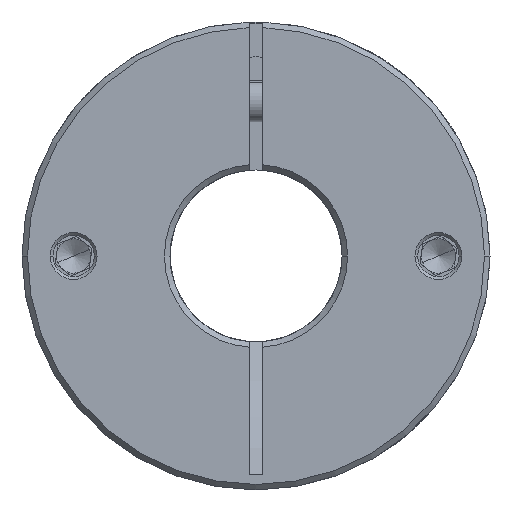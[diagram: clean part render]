
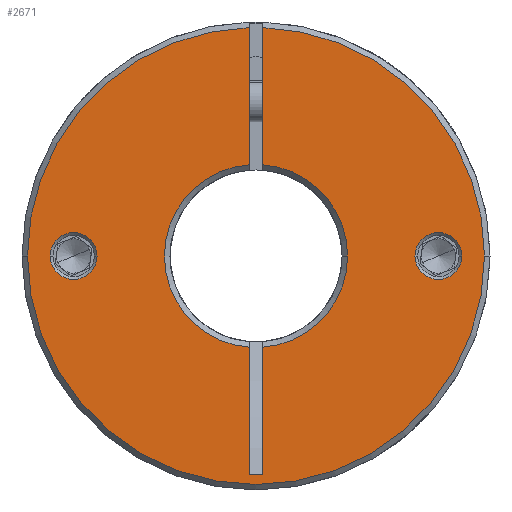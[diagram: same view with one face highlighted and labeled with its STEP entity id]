
A CAD part, front view. The second image highlights one B-rep face of the part: STEP entity #2671.
In plain terms, the highlighted planar face has unit normal (0, -1, 0).
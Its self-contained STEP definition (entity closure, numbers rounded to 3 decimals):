
#128 = ORIENTED_EDGE ( 'NONE', *, *, #8541, .T. ) ;
#155 = ORIENTED_EDGE ( 'NONE', *, *, #10437, .T. ) ;
#261 = VECTOR ( 'NONE', #12223, 1000. ) ;
#287 = AXIS2_PLACEMENT_3D ( 'NONE', #10961, #4837, #667 ) ;
#355 = CARTESIAN_POINT ( 'NONE',  ( -3.735, -47.045, 101.185 ) ) ;
#404 = DIRECTION ( 'NONE',  ( 1., 0., 0. ) ) ;
#440 = DIRECTION ( 'NONE',  ( 1., 0., 0. ) ) ;
#449 = LINE ( 'NONE', #1004, #8158 ) ;
#667 = DIRECTION ( 'NONE',  ( 1., 0., 0. ) ) ;
#725 = ORIENTED_EDGE ( 'NONE', *, *, #7906, .T. ) ;
#765 = VERTEX_POINT ( 'NONE', #12778 ) ;
#1004 = CARTESIAN_POINT ( 'NONE',  ( -3.735, -47.045, 68. ) ) ;
#1015 = VERTEX_POINT ( 'NONE', #1152 ) ;
#1054 = CIRCLE ( 'NONE', #7667, 13.3 ) ;
#1142 = CARTESIAN_POINT ( 'NONE',  ( -1.735, -47.045, 68. ) ) ;
#1152 = CARTESIAN_POINT ( 'NONE',  ( -1.735, -47.045, 54.738 ) ) ;
#1239 = CIRCLE ( 'NONE', #4769, 13.3 ) ;
#1367 = CARTESIAN_POINT ( 'NONE',  ( -3.735, -47.045, 54.738 ) ) ;
#1420 = VERTEX_POINT ( 'NONE', #4089 ) ;
#1473 = CIRCLE ( 'NONE', #12569, 33.2 ) ;
#1604 = DIRECTION ( 'NONE',  ( 0., 1., 0. ) ) ;
#1718 = VERTEX_POINT ( 'NONE', #11861 ) ;
#1912 = VECTOR ( 'NONE', #9119, 1000. ) ;
#2124 = AXIS2_PLACEMENT_3D ( 'NONE', #9605, #10636, #12713 ) ;
#2381 = ORIENTED_EDGE ( 'NONE', *, *, #4077, .T. ) ;
#2495 = CARTESIAN_POINT ( 'NONE',  ( -29.235, -47.045, 68. ) ) ;
#2525 = LINE ( 'NONE', #6097, #9102 ) ;
#2616 = ORIENTED_EDGE ( 'NONE', *, *, #9442, .T. ) ;
#2671 = ADVANCED_FACE ( 'NONE', ( #13239, #7139, #3574 ), #8592, .T. ) ;
#2858 = DIRECTION ( 'NONE',  ( 0., 1., 0. ) ) ;
#2904 = CARTESIAN_POINT ( 'NONE',  ( -29.235, -47.045, 68. ) ) ;
#2954 = CARTESIAN_POINT ( 'NONE',  ( -32.635, -47.045, 68. ) ) ;
#3042 = CARTESIAN_POINT ( 'NONE',  ( -3.735, -47.045, 68. ) ) ;
#3209 = CIRCLE ( 'NONE', #4176, 33.2 ) ;
#3222 = DIRECTION ( 'NONE',  ( 0., 0., -1. ) ) ;
#3409 = VERTEX_POINT ( 'NONE', #2954 ) ;
#3479 = DIRECTION ( 'NONE',  ( 0., -1., 0. ) ) ;
#3518 = ORIENTED_EDGE ( 'NONE', *, *, #7198, .T. ) ;
#3536 = CIRCLE ( 'NONE', #7831, 3.4 ) ;
#3574 = FACE_OUTER_BOUND ( 'NONE', #5562, .T. ) ;
#3647 = CIRCLE ( 'NONE', #4708, 13.3 ) ;
#3910 = DIRECTION ( 'NONE',  ( 1., 0., 0. ) ) ;
#4031 = CARTESIAN_POINT ( 'NONE',  ( -1.735, -47.045, 68. ) ) ;
#4077 = EDGE_CURVE ( 'NONE', #1718, #6850, #3536, .T. ) ;
#4089 = CARTESIAN_POINT ( 'NONE',  ( -35.935, -47.045, 68. ) ) ;
#4176 = AXIS2_PLACEMENT_3D ( 'NONE', #11349, #12338, #11393 ) ;
#4284 = VERTEX_POINT ( 'NONE', #8110 ) ;
#4434 = EDGE_CURVE ( 'NONE', #7530, #5929, #3209, .T. ) ;
#4556 = LINE ( 'NONE', #4031, #261 ) ;
#4600 = EDGE_CURVE ( 'NONE', #9509, #1420, #1473, .T. ) ;
#4617 = CARTESIAN_POINT ( 'NONE',  ( -2.735, -47.045, 68. ) ) ;
#4708 = AXIS2_PLACEMENT_3D ( 'NONE', #5610, #12837, #6687 ) ;
#4733 = VECTOR ( 'NONE', #3222, 1000. ) ;
#4769 = AXIS2_PLACEMENT_3D ( 'NONE', #4617, #1604, #5645 ) ;
#4837 = DIRECTION ( 'NONE',  ( 0., -1., 0. ) ) ;
#4998 = ORIENTED_EDGE ( 'NONE', *, *, #12770, .T. ) ;
#5142 = CARTESIAN_POINT ( 'NONE',  ( -3.735, -47.045, 81.262 ) ) ;
#5170 = CARTESIAN_POINT ( 'NONE',  ( -2.735, -47.045, 68. ) ) ;
#5384 = DIRECTION ( 'NONE',  ( 0., 1., 0. ) ) ;
#5562 = EDGE_LOOP ( 'NONE', ( #9489, #8819, #155, #9001, #11243, #3518, #8365, #4998, #725, #9179, #128 ) ) ;
#5570 = EDGE_CURVE ( 'NONE', #6850, #1718, #12516, .T. ) ;
#5610 = CARTESIAN_POINT ( 'NONE',  ( -2.735, -47.045, 68. ) ) ;
#5645 = DIRECTION ( 'NONE',  ( 1., 0., 0. ) ) ;
#5812 = EDGE_CURVE ( 'NONE', #12473, #765, #10084, .T. ) ;
#5929 = VERTEX_POINT ( 'NONE', #12331 ) ;
#6097 = CARTESIAN_POINT ( 'NONE',  ( -3.735, -47.045, 36.279 ) ) ;
#6216 = EDGE_LOOP ( 'NONE', ( #10974, #2381 ) ) ;
#6339 = ORIENTED_EDGE ( 'NONE', *, *, #8368, .T. ) ;
#6458 = CARTESIAN_POINT ( 'NONE',  ( -1.735, -47.045, 81.262 ) ) ;
#6543 = DIRECTION ( 'NONE',  ( 0., 1., 0. ) ) ;
#6621 = CARTESIAN_POINT ( 'NONE',  ( -1.735, -47.045, 36.279 ) ) ;
#6687 = DIRECTION ( 'NONE',  ( 1., 0., 0. ) ) ;
#6703 = LINE ( 'NONE', #1142, #4733 ) ;
#6849 = AXIS2_PLACEMENT_3D ( 'NONE', #8392, #12495, #7584 ) ;
#6850 = VERTEX_POINT ( 'NONE', #9153 ) ;
#7139 = FACE_BOUND ( 'NONE', #12756, .T. ) ;
#7198 = EDGE_CURVE ( 'NONE', #10935, #8607, #1239, .T. ) ;
#7530 = VERTEX_POINT ( 'NONE', #9272 ) ;
#7584 = DIRECTION ( 'NONE',  ( 1., 0., 0. ) ) ;
#7667 = AXIS2_PLACEMENT_3D ( 'NONE', #5170, #10258, #12320 ) ;
#7831 = AXIS2_PLACEMENT_3D ( 'NONE', #10624, #6543, #404 ) ;
#7906 = EDGE_CURVE ( 'NONE', #10363, #765, #2525, .T. ) ;
#7928 = EDGE_CURVE ( 'NONE', #9509, #8032, #449, .T. ) ;
#8015 = EDGE_CURVE ( 'NONE', #5929, #10935, #6703, .T. ) ;
#8032 = VERTEX_POINT ( 'NONE', #5142 ) ;
#8110 = CARTESIAN_POINT ( 'NONE',  ( -25.835, -47.045, 68. ) ) ;
#8158 = VECTOR ( 'NONE', #9075, 1000. ) ;
#8365 = ORIENTED_EDGE ( 'NONE', *, *, #9972, .T. ) ;
#8368 = EDGE_CURVE ( 'NONE', #4284, #3409, #11006, .T. ) ;
#8392 = CARTESIAN_POINT ( 'NONE',  ( 23.765, -47.045, 68. ) ) ;
#8541 = EDGE_CURVE ( 'NONE', #12473, #8032, #1054, .T. ) ;
#8589 = DIRECTION ( 'NONE',  ( 1., 0., 0. ) ) ;
#8592 = PLANE ( 'NONE',  #2124 ) ;
#8607 = VERTEX_POINT ( 'NONE', #12765 ) ;
#8819 = ORIENTED_EDGE ( 'NONE', *, *, #4600, .T. ) ;
#9001 = ORIENTED_EDGE ( 'NONE', *, *, #4434, .T. ) ;
#9075 = DIRECTION ( 'NONE',  ( 0., 0., -1. ) ) ;
#9102 = VECTOR ( 'NONE', #9127, 1000. ) ;
#9119 = DIRECTION ( 'NONE',  ( 0., 0., -1. ) ) ;
#9127 = DIRECTION ( 'NONE',  ( -1., 0., 0. ) ) ;
#9153 = CARTESIAN_POINT ( 'NONE',  ( 27.165, -47.045, 68. ) ) ;
#9179 = ORIENTED_EDGE ( 'NONE', *, *, #5812, .F. ) ;
#9272 = CARTESIAN_POINT ( 'NONE',  ( 30.465, -47.045, 68. ) ) ;
#9442 = EDGE_CURVE ( 'NONE', #3409, #4284, #10752, .T. ) ;
#9489 = ORIENTED_EDGE ( 'NONE', *, *, #7928, .F. ) ;
#9509 = VERTEX_POINT ( 'NONE', #355 ) ;
#9605 = CARTESIAN_POINT ( 'NONE',  ( -2.735, -47.045, 68. ) ) ;
#9642 = CARTESIAN_POINT ( 'NONE',  ( -2.735, -47.045, 68. ) ) ;
#9972 = EDGE_CURVE ( 'NONE', #8607, #1015, #3647, .T. ) ;
#10084 = LINE ( 'NONE', #3042, #1912 ) ;
#10258 = DIRECTION ( 'NONE',  ( 0., 1., 0. ) ) ;
#10363 = VERTEX_POINT ( 'NONE', #6621 ) ;
#10437 = EDGE_CURVE ( 'NONE', #1420, #7530, #12825, .T. ) ;
#10624 = CARTESIAN_POINT ( 'NONE',  ( 23.765, -47.045, 68. ) ) ;
#10636 = DIRECTION ( 'NONE',  ( 0., -1., 0. ) ) ;
#10752 = CIRCLE ( 'NONE', #12032, 3.4 ) ;
#10905 = AXIS2_PLACEMENT_3D ( 'NONE', #2904, #2858, #3910 ) ;
#10935 = VERTEX_POINT ( 'NONE', #6458 ) ;
#10961 = CARTESIAN_POINT ( 'NONE',  ( -2.735, -47.045, 68. ) ) ;
#10974 = ORIENTED_EDGE ( 'NONE', *, *, #5570, .T. ) ;
#11006 = CIRCLE ( 'NONE', #10905, 3.4 ) ;
#11243 = ORIENTED_EDGE ( 'NONE', *, *, #8015, .T. ) ;
#11349 = CARTESIAN_POINT ( 'NONE',  ( -2.735, -47.045, 68. ) ) ;
#11393 = DIRECTION ( 'NONE',  ( 1., 0., 0. ) ) ;
#11861 = CARTESIAN_POINT ( 'NONE',  ( 20.365, -47.045, 68. ) ) ;
#12032 = AXIS2_PLACEMENT_3D ( 'NONE', #2495, #5384, #440 ) ;
#12223 = DIRECTION ( 'NONE',  ( 0., 0., -1. ) ) ;
#12320 = DIRECTION ( 'NONE',  ( 1., 0., 0. ) ) ;
#12331 = CARTESIAN_POINT ( 'NONE',  ( -1.735, -47.045, 101.185 ) ) ;
#12338 = DIRECTION ( 'NONE',  ( 0., -1., 0. ) ) ;
#12473 = VERTEX_POINT ( 'NONE', #1367 ) ;
#12495 = DIRECTION ( 'NONE',  ( 0., 1., 0. ) ) ;
#12516 = CIRCLE ( 'NONE', #6849, 3.4 ) ;
#12569 = AXIS2_PLACEMENT_3D ( 'NONE', #9642, #3479, #8589 ) ;
#12713 = DIRECTION ( 'NONE',  ( 1., 0., 0. ) ) ;
#12756 = EDGE_LOOP ( 'NONE', ( #6339, #2616 ) ) ;
#12765 = CARTESIAN_POINT ( 'NONE',  ( 10.565, -47.045, 68. ) ) ;
#12770 = EDGE_CURVE ( 'NONE', #1015, #10363, #4556, .T. ) ;
#12778 = CARTESIAN_POINT ( 'NONE',  ( -3.735, -47.045, 36.279 ) ) ;
#12825 = CIRCLE ( 'NONE', #287, 33.2 ) ;
#12837 = DIRECTION ( 'NONE',  ( 0., 1., 0. ) ) ;
#13239 = FACE_BOUND ( 'NONE', #6216, .T. ) ;
